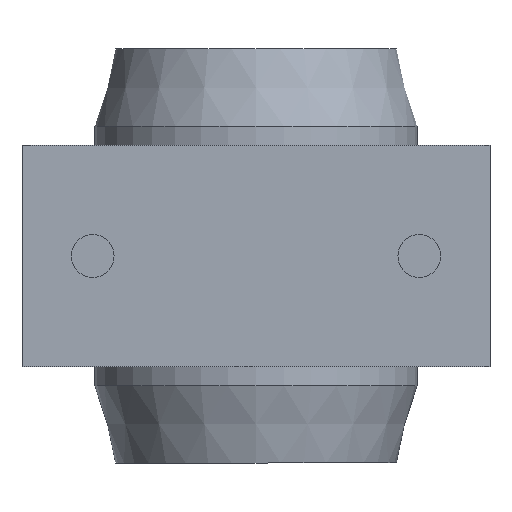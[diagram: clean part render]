
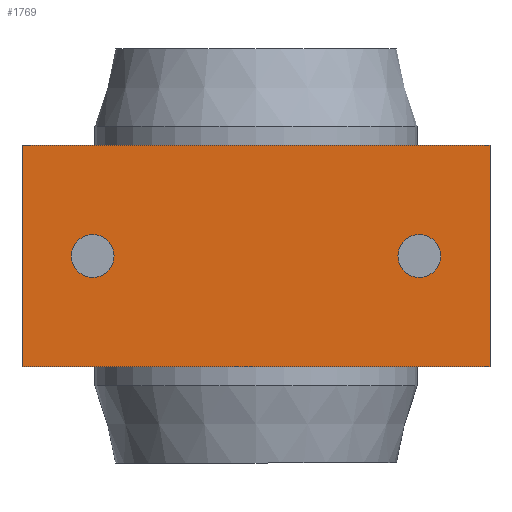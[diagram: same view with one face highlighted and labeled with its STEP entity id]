
A CAD part, front view. The second image highlights one B-rep face of the part: STEP entity #1769.
In plain terms, the highlighted planar face has unit normal (0, -1, 0).
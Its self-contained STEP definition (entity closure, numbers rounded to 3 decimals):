
#110=FACE_BOUND('',#316,.T.);
#111=FACE_BOUND('',#317,.T.);
#145=PLANE('',#2037);
#207=FACE_OUTER_BOUND('',#315,.T.);
#315=EDGE_LOOP('',(#1272,#1273,#1274,#1275));
#316=EDGE_LOOP('',(#1276,#1277));
#317=EDGE_LOOP('',(#1278,#1279));
#442=LINE('',#2936,#533);
#449=LINE('',#2952,#540);
#458=LINE('',#2987,#549);
#459=LINE('',#2989,#550);
#533=VECTOR('',#2306,10.);
#540=VECTOR('',#2319,10.);
#549=VECTOR('',#2362,10.);
#550=VECTOR('',#2365,10.);
#616=CIRCLE('',#1984,3.324);
#617=CIRCLE('',#1985,3.324);
#620=CIRCLE('',#1990,3.324);
#621=CIRCLE('',#1991,3.324);
#731=VERTEX_POINT('',#2865);
#732=VERTEX_POINT('',#2866);
#735=VERTEX_POINT('',#2876);
#736=VERTEX_POINT('',#2877);
#758=VERTEX_POINT('',#2933);
#759=VERTEX_POINT('',#2935);
#764=VERTEX_POINT('',#2949);
#765=VERTEX_POINT('',#2951);
#905=EDGE_CURVE('',#731,#732,#616,.T.);
#906=EDGE_CURVE('',#732,#731,#617,.T.);
#910=EDGE_CURVE('',#735,#736,#620,.T.);
#911=EDGE_CURVE('',#736,#735,#621,.T.);
#938=EDGE_CURVE('',#759,#758,#442,.T.);
#946=EDGE_CURVE('',#765,#764,#449,.T.);
#965=EDGE_CURVE('',#758,#765,#458,.T.);
#966=EDGE_CURVE('',#764,#759,#459,.T.);
#1272=ORIENTED_EDGE('',*,*,#965,.T.);
#1273=ORIENTED_EDGE('',*,*,#946,.T.);
#1274=ORIENTED_EDGE('',*,*,#966,.T.);
#1275=ORIENTED_EDGE('',*,*,#938,.T.);
#1276=ORIENTED_EDGE('',*,*,#905,.T.);
#1277=ORIENTED_EDGE('',*,*,#906,.T.);
#1278=ORIENTED_EDGE('',*,*,#910,.T.);
#1279=ORIENTED_EDGE('',*,*,#911,.T.);
#1769=ADVANCED_FACE('',(#207,#110,#111),#145,.F.);
#1984=AXIS2_PLACEMENT_3D('',#2867,#2232,#2233);
#1985=AXIS2_PLACEMENT_3D('',#2868,#2234,#2235);
#1990=AXIS2_PLACEMENT_3D('',#2878,#2245,#2246);
#1991=AXIS2_PLACEMENT_3D('',#2879,#2247,#2248);
#2037=AXIS2_PLACEMENT_3D('',#2990,#2366,#2367);
#2232=DIRECTION('center_axis',(0.,1.,0.));
#2233=DIRECTION('ref_axis',(-1.,0.,0.));
#2234=DIRECTION('center_axis',(0.,1.,0.));
#2235=DIRECTION('ref_axis',(-1.,0.,0.));
#2245=DIRECTION('center_axis',(0.,1.,0.));
#2246=DIRECTION('ref_axis',(-1.,0.,0.));
#2247=DIRECTION('center_axis',(0.,1.,0.));
#2248=DIRECTION('ref_axis',(-1.,0.,0.));
#2306=DIRECTION('',(1.,0.,0.));
#2319=DIRECTION('',(-1.,0.,0.));
#2362=DIRECTION('',(0.,0.,1.));
#2365=DIRECTION('',(0.,0.,-1.));
#2366=DIRECTION('center_axis',(0.,1.,0.));
#2367=DIRECTION('ref_axis',(0.,0.,1.));
#2865=CARTESIAN_POINT('',(-28.724,-33.3,0.));
#2866=CARTESIAN_POINT('',(-22.077,-33.3,0.));
#2867=CARTESIAN_POINT('Origin',(-25.4,-33.3,0.));
#2868=CARTESIAN_POINT('Origin',(-25.4,-33.3,0.));
#2876=CARTESIAN_POINT('',(22.077,-33.3,0.));
#2877=CARTESIAN_POINT('',(28.724,-33.3,0.));
#2878=CARTESIAN_POINT('Origin',(25.4,-33.3,0.));
#2879=CARTESIAN_POINT('Origin',(25.4,-33.3,0.));
#2933=CARTESIAN_POINT('',(36.4,-33.3,-17.25));
#2935=CARTESIAN_POINT('',(-36.4,-33.3,-17.25));
#2936=CARTESIAN_POINT('',(18.2,-33.3,-17.25));
#2949=CARTESIAN_POINT('',(-36.4,-33.3,17.25));
#2951=CARTESIAN_POINT('',(36.4,-33.3,17.25));
#2952=CARTESIAN_POINT('',(-18.2,-33.3,17.25));
#2987=CARTESIAN_POINT('',(36.4,-33.3,8.625));
#2989=CARTESIAN_POINT('',(-36.4,-33.3,-8.625));
#2990=CARTESIAN_POINT('Origin',(0.,-33.3,0.));
